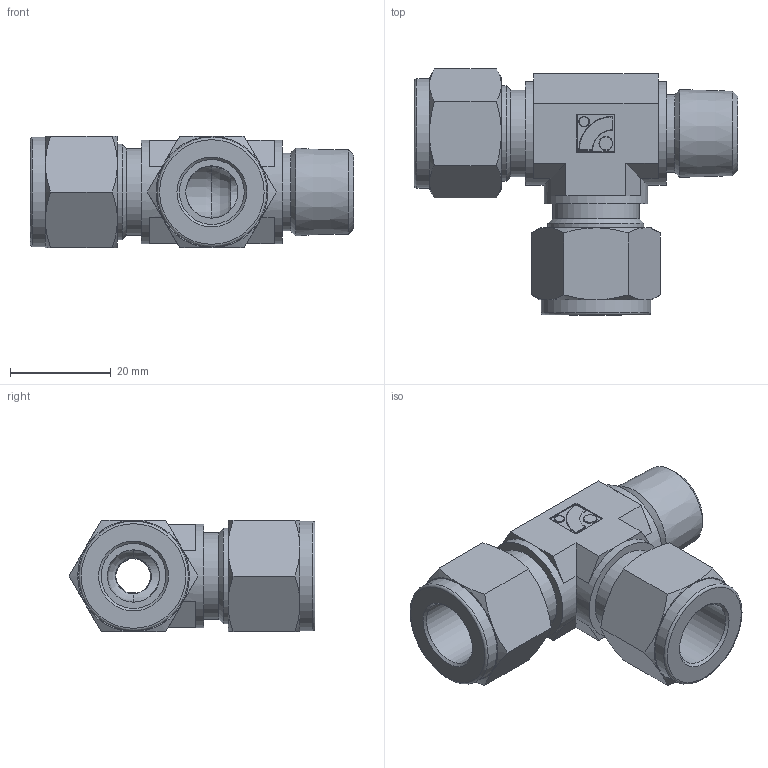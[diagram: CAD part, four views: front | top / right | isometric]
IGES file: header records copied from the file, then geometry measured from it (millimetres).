
Global section: file name: No Iges File Name specified; native system: Autodesk Inventor 2012; preprocessor: AutoDesk Inventor Iges Exporter R2012; author: 硅己绕,, ; organization: 11; date: 20150815.154838; units: millimetre
Bounding box: 64.3 x 48.93 x 22.22 mm (x, y, z)
Volume: 22628.2 mm3; surface area: 10568.1 mm2
Topology: 1 solids, 1 shells, 148 faces, 343 edges, 208 vertices
Faces by surface type: plane 62, cone 29, revolution 24, cylinder 23, torus 6, sphere 4
Full cylindrical faces by diameter (mm): 2.006 x1, 2.675 x1, 15.5 x1, 17.2 x2, 19.05 x2, 20.6 x3, 21.8 x2
